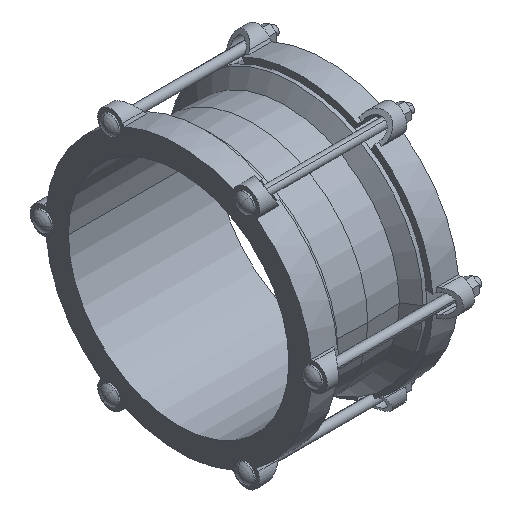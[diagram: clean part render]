
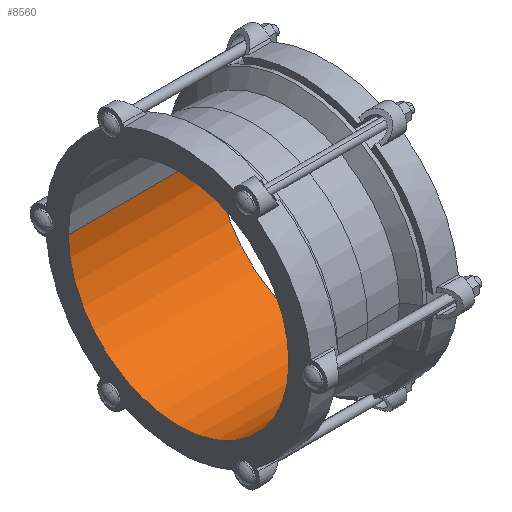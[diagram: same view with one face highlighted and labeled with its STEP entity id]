
A CAD part, isometric view. The second image highlights one B-rep face of the part: STEP entity #8560.
In plain terms, the highlighted cylindrical face has radius 148.25 mm (diameter 296.5 mm), a partial arc.
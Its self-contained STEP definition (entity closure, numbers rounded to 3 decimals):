
#1619=CARTESIAN_POINT('',(99.,0.,0.));
#1620=DIRECTION('',(-1.,0.,0.));
#1621=DIRECTION('',(0.,1.,0.));
#1622=AXIS2_PLACEMENT_3D('',#1619,#1620,#1621);
#3185=DIRECTION('',(1.,0.,0.));
#3186=VECTOR('',#3185,198.);
#3187=CARTESIAN_POINT('',(-99.,148.25,0.));
#3188=LINE('',#3187,#3186);
#3189=DIRECTION('',(1.,0.,0.));
#3190=VECTOR('',#3189,198.);
#3191=CARTESIAN_POINT('',(-99.,-148.25,0.));
#3192=LINE('',#3191,#3190);
#3193=CARTESIAN_POINT('',(-99.,0.,0.));
#3194=DIRECTION('',(-1.,0.,0.));
#3195=DIRECTION('',(0.,1.,0.));
#3196=AXIS2_PLACEMENT_3D('',#3193,#3194,#3195);
#3672=CARTESIAN_POINT('',(-99.,148.25,0.));
#3673=CARTESIAN_POINT('',(99.,148.25,0.));
#3674=VERTEX_POINT('',#3672);
#3675=VERTEX_POINT('',#3673);
#3684=CARTESIAN_POINT('',(-99.,-148.25,0.));
#3685=CARTESIAN_POINT('',(99.,-148.25,0.));
#3686=VERTEX_POINT('',#3684);
#3687=VERTEX_POINT('',#3685);
#8547=CARTESIAN_POINT('',(-108.9,0.,0.));
#8548=DIRECTION('',(1.,0.,0.));
#8549=DIRECTION('',(0.,-1.,0.));
#8550=AXIS2_PLACEMENT_3D('',#8547,#8548,#8549);
#8551=CYLINDRICAL_SURFACE('',#8550,148.25);
#8553=ORIENTED_EDGE('',*,*,#8552,.T.);
#8554=ORIENTED_EDGE('',*,*,#6403,.T.);
#8556=ORIENTED_EDGE('',*,*,#8555,.F.);
#8557=ORIENTED_EDGE('',*,*,#4709,.F.);
#8558=EDGE_LOOP('',(#8553,#8554,#8556,#8557));
#8559=FACE_OUTER_BOUND('',#8558,.F.);
#8560=ADVANCED_FACE('',(#8559),#8551,.F.);
#1623=CIRCLE('',#1622,148.25);
#3197=CIRCLE('',#3196,148.25);
#4709=EDGE_CURVE('',#3674,#3686,#3197,.T.);
#6403=EDGE_CURVE('',#3675,#3687,#1623,.T.);
#8552=EDGE_CURVE('',#3674,#3675,#3188,.T.);
#8555=EDGE_CURVE('',#3686,#3687,#3192,.T.);
